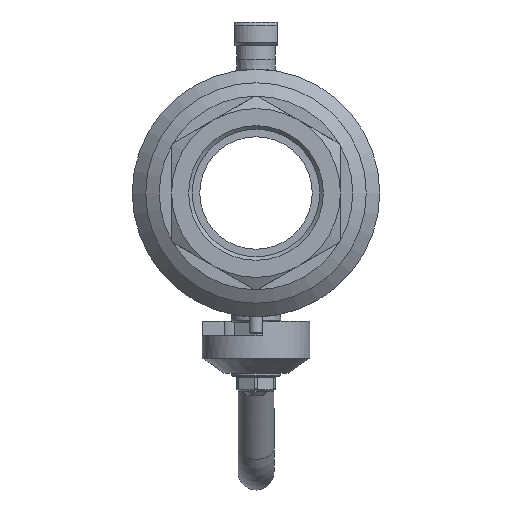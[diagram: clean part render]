
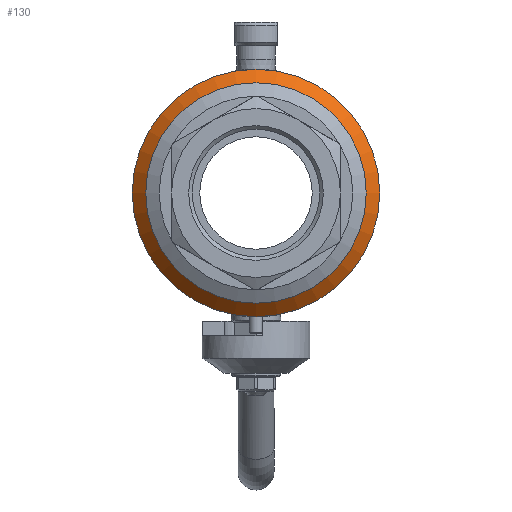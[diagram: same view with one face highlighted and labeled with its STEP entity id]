
A CAD part, left-side view. The second image highlights one B-rep face of the part: STEP entity #130.
In plain terms, the highlighted conical face has half-angle 45 degrees and reference radius 52 mm.
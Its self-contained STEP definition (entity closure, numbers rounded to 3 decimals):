
#130=ADVANCED_FACE('',(#1218),#1220,.T.);
#1218=FACE_OUTER_BOUND('',#1219,.T.);
#1219=EDGE_LOOP('',(#2484,#2485,#2486,#2487,#2488));
#1220=CONICAL_SURFACE('',#1221,52.,0.785);
#1221=AXIS2_PLACEMENT_3D('',#1222,#1223,#1224);
#1222=CARTESIAN_POINT('',(-32.,0.,0.));
#1223=DIRECTION('',(1.,0.,0.));
#1224=DIRECTION('',(0.,1.,0.));
#2484=ORIENTED_EDGE('',*,*,#3805,.F.);
#2485=ORIENTED_EDGE('',*,*,#3806,.F.);
#2486=ORIENTED_EDGE('',*,*,#3807,.T.);
#2487=ORIENTED_EDGE('',*,*,#3766,.T.);
#2488=ORIENTED_EDGE('',*,*,#3807,.F.);
#3766=EDGE_CURVE('',#4161,#4161,#4163,.T.);
#3805=EDGE_CURVE('',#4223,#4224,#4225,.T.);
#3806=EDGE_CURVE('',#4224,#4223,#4226,.T.);
#3807=EDGE_CURVE('',#4224,#4161,#4227,.T.);
#4161=VERTEX_POINT('',#5489);
#4163=CIRCLE('',#5493,55.);
#4223=VERTEX_POINT('',#5648);
#4224=VERTEX_POINT('',#5649);
#4225=CIRCLE('',#5650,49.);
#4226=CIRCLE('',#5654,49.);
#4227=LINE('',#5658,#5659);
#5489=CARTESIAN_POINT('',(-29.,-55.,0.));
#5493=AXIS2_PLACEMENT_3D('',#5494,#5495,#5496);
#5494=CARTESIAN_POINT('',(-29.,0.,0.));
#5495=DIRECTION('',(-1.,-0.,0.));
#5496=DIRECTION('',(0.,-1.,0.));
#5648=CARTESIAN_POINT('',(-35.,42.435,24.5));
#5649=CARTESIAN_POINT('',(-35.,-49.,0.));
#5650=AXIS2_PLACEMENT_3D('',#5651,#5652,#5653);
#5651=CARTESIAN_POINT('',(-35.,0.,0.));
#5652=DIRECTION('',(-1.,-0.,0.));
#5653=DIRECTION('',(0.,0.866,0.5));
#5654=AXIS2_PLACEMENT_3D('',#5655,#5656,#5657);
#5655=CARTESIAN_POINT('',(-35.,0.,0.));
#5656=DIRECTION('',(-1.,-0.,0.));
#5657=DIRECTION('',(0.,-1.,0.));
#5658=CARTESIAN_POINT('',(-35.,-49.,0.));
#5659=VECTOR('',#5660,1.);
#5660=DIRECTION('',(0.707,-0.707,0.));
